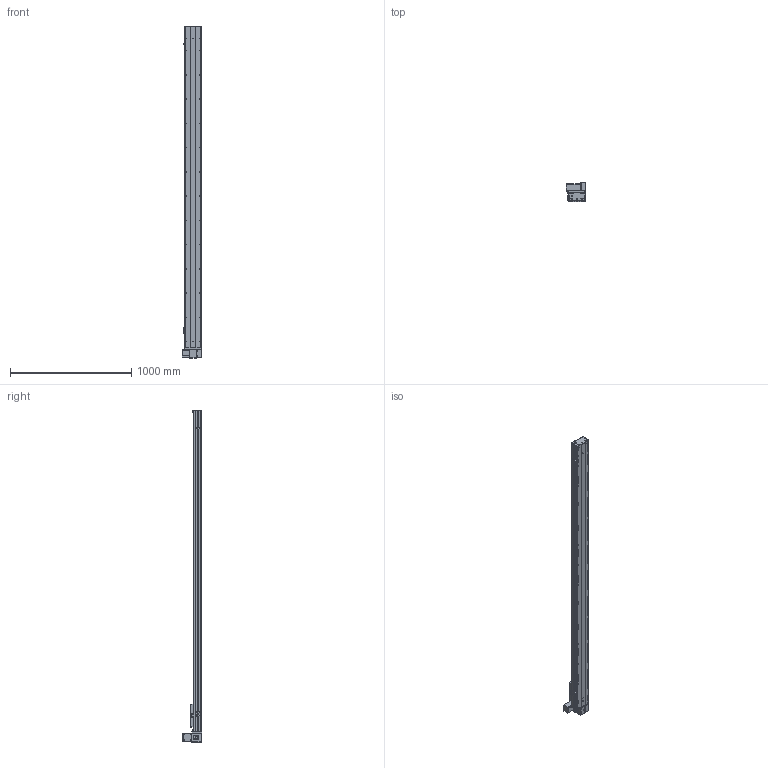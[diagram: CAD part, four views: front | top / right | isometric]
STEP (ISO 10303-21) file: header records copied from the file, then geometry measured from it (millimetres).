
FILE_DESCRIPTION (( 'STEP AP203' ), '1' );
FILE_NAME ('Y135CB-D90-S2350-UL-P400W.STEP', '2020-02-18T08:01:11', ( '微软用户' ), ( '微软中国' ), 'SwSTEP 2.0', 'SolidWorks 2017', '' );
FILE_SCHEMA (( 'CONFIG_CONTROL_DESIGN' ));
Length unit declared in the file: millimetre
Products named in the file (18): C-雄赽釱--; 0B-萇儂楊擘啣; Y10B-耜蚾蟀諉啣----; san松下电机400不带刹车----; 00B-俋欶BM--; 5CB --掛极耜裔啣-; Y10B--々湍喘謫眊--666; C-詩湍揤踡え-陔; Y135CB-耜裔; Y135CB-D90-S2350-UL-P400W; 135CB--詩湍-CE; 135CB---遴掛极.-; Y100-135俋离換覜ん--; 35CB---喘謫眊楊擘啣; Y135C-陔俋离換覜結え-; 0B-埴倛裔啣; 5C--俋欶; 0B-源倛裔啣
Assembly tree (21 placements, depth 2):
  Y135CB-D90-S2350-UL-P400W
    Y135CB-耜裔
    135CB---遴掛极.-
    35CB---喘謫眊楊擘啣
    0B-埴倛裔啣
    0B-源倛裔啣
    0B-萇儂楊擘啣
    san松下电机400不带刹车----
    5CB --掛极耜裔啣-  x2
    C-詩湍揤踡え-陔  x2
    135CB--詩湍-CE
    Y100-135俋离換覜ん--  x3
    Y135C-陔俋离換覜結え-
    5C--俋欶
    C-雄赽釱--
    Y10B-耜蚾蟀諉啣----
    00B-俋欶BM--
    Y10B--々湍喘謫眊--666
Bounding box: 157 x 158.7 x 2738 mm (x, y, z)
Volume: 7892225.9 mm3; surface area: 3123650.9 mm2
Topology: 21 solids, 21 shells, 973 faces, 2653 edges, 1758 vertices
Faces by surface type: cylinder 501, plane 456, cone 16
Entity records: 30763 total; most frequent: CARTESIAN_POINT 5120, DIRECTION 5113, ORIENTED_EDGE 4782, EDGE_CURVE 2391, AXIS2_PLACEMENT_3D 1875, VERTEX_POINT 1586, LINE 1363, VECTOR 1363
